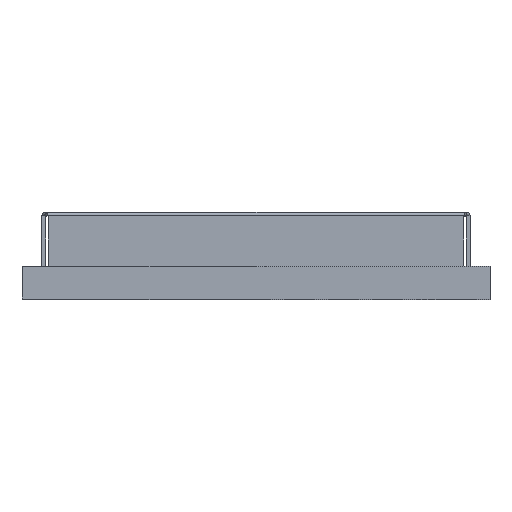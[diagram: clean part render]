
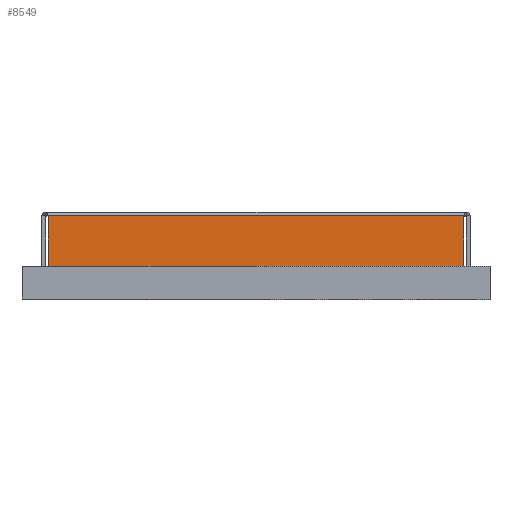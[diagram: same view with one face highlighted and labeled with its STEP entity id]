
A CAD part, top view. The second image highlights one B-rep face of the part: STEP entity #8549.
In plain terms, the highlighted planar face has unit normal (0, 0, 1).
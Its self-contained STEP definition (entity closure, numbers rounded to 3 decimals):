
#794 = DIRECTION ( 'NONE',  ( 1., 0., 0. ) ) ;
#909 = CARTESIAN_POINT ( 'NONE',  ( 0., 0., 6.95 ) ) ;
#963 = ORIENTED_EDGE ( 'NONE', *, *, #6613, .F. ) ;
#1142 = ORIENTED_EDGE ( 'NONE', *, *, #1244, .F. ) ;
#1244 = EDGE_CURVE ( 'NONE', #12224, #4516, #3902, .T. ) ;
#1425 = CARTESIAN_POINT ( 'NONE',  ( -5.729, 0.9, 6.95 ) ) ;
#1737 = DIRECTION ( 'NONE',  ( 0., 1., 0. ) ) ;
#2180 = VECTOR ( 'NONE', #1737, 1000. ) ;
#2601 = CARTESIAN_POINT ( 'NONE',  ( 5.9, 2.3, 6.95 ) ) ;
#2627 = LINE ( 'NONE', #3047, #7075 ) ;
#2911 = DIRECTION ( 'NONE',  ( 0., 0., 1. ) ) ;
#2994 = VECTOR ( 'NONE', #11618, 1000. ) ;
#3047 = CARTESIAN_POINT ( 'NONE',  ( -5.9, 0.9, 6.95 ) ) ;
#3683 = PLANE ( 'NONE',  #10545 ) ;
#3889 = DIRECTION ( 'NONE',  ( -1., 0., 0. ) ) ;
#3902 = LINE ( 'NONE', #2601, #11937 ) ;
#4172 = CARTESIAN_POINT ( 'NONE',  ( 5.729, 0.9, 6.95 ) ) ;
#4516 = VERTEX_POINT ( 'NONE', #10910 ) ;
#5546 = LINE ( 'NONE', #9387, #2994 ) ;
#5882 = EDGE_CURVE ( 'NONE', #6759, #4516, #8312, .T. ) ;
#6613 = EDGE_CURVE ( 'NONE', #6759, #9374, #2627, .T. ) ;
#6759 = VERTEX_POINT ( 'NONE', #4172 ) ;
#6913 = ORIENTED_EDGE ( 'NONE', *, *, #5882, .T. ) ;
#7075 = VECTOR ( 'NONE', #3889, 1000. ) ;
#8312 = LINE ( 'NONE', #9113, #2180 ) ;
#8549 = ADVANCED_FACE ( 'NONE', ( #10747 ), #3683, .T. ) ;
#8614 = DIRECTION ( 'NONE',  ( 0., -1., 0. ) ) ;
#8631 = ORIENTED_EDGE ( 'NONE', *, *, #9090, .F. ) ;
#9090 = EDGE_CURVE ( 'NONE', #9374, #12224, #5546, .T. ) ;
#9113 = CARTESIAN_POINT ( 'NONE',  ( 5.729, 0., 6.95 ) ) ;
#9248 = CARTESIAN_POINT ( 'NONE',  ( -5.729, 2.3, 6.95 ) ) ;
#9374 = VERTEX_POINT ( 'NONE', #1425 ) ;
#9387 = CARTESIAN_POINT ( 'NONE',  ( -5.729, 2.3, 6.95 ) ) ;
#10545 = AXIS2_PLACEMENT_3D ( 'NONE', #909, #2911, #8614 ) ;
#10747 = FACE_OUTER_BOUND ( 'NONE', #10855, .T. ) ;
#10855 = EDGE_LOOP ( 'NONE', ( #8631, #963, #6913, #1142 ) ) ;
#10910 = CARTESIAN_POINT ( 'NONE',  ( 5.729, 2.3, 6.95 ) ) ;
#11618 = DIRECTION ( 'NONE',  ( 0., 1., 0. ) ) ;
#11937 = VECTOR ( 'NONE', #794, 1000. ) ;
#12224 = VERTEX_POINT ( 'NONE', #9248 ) ;
